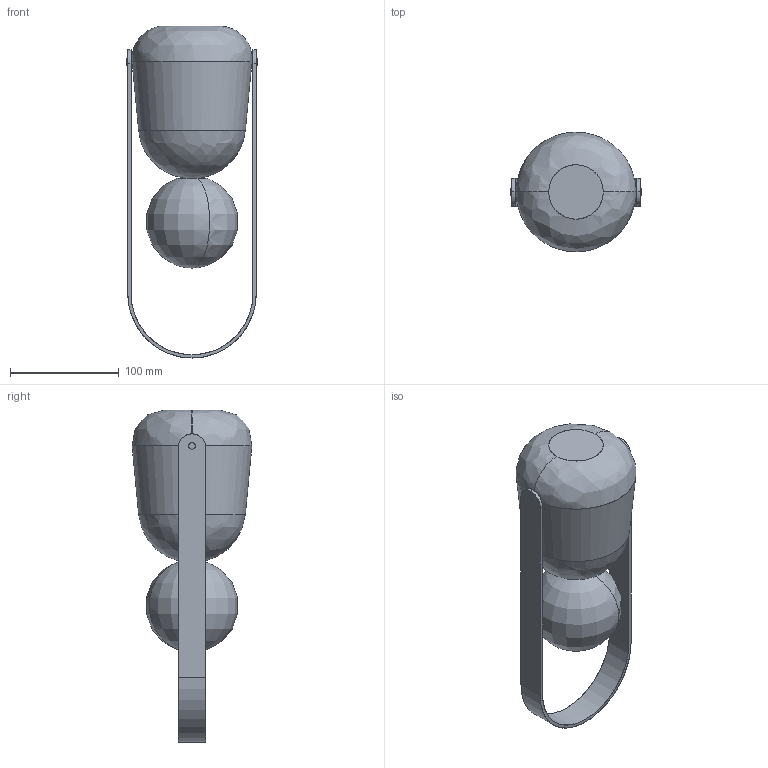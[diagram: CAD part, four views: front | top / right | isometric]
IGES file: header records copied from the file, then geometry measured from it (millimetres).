
Start section: SolidWorks IGES file using analytic representation for surfaces
Global section: file name: C:\Users\Agus\Desktop\pruebas\S1294\S1294.IGS; native system: SolidWorks 2018; preprocessor: SolidWorks 2018; author: Agus; date: 210629.190307; units: millimetre
Bounding box: 120 x 110 x 304.98 mm (x, y, z)
Surface area: 128890.9 mm2 (no closed solid volume)
Topology: 0 solids, 0 shells, 36 faces, 672 edges, 669 vertices
Faces by surface type: revolution 20, bspline 16
